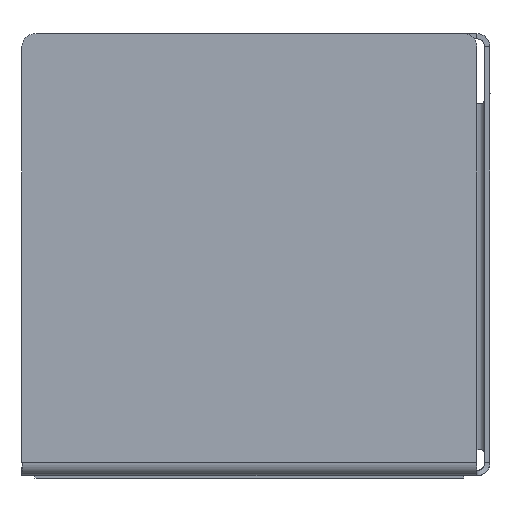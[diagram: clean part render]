
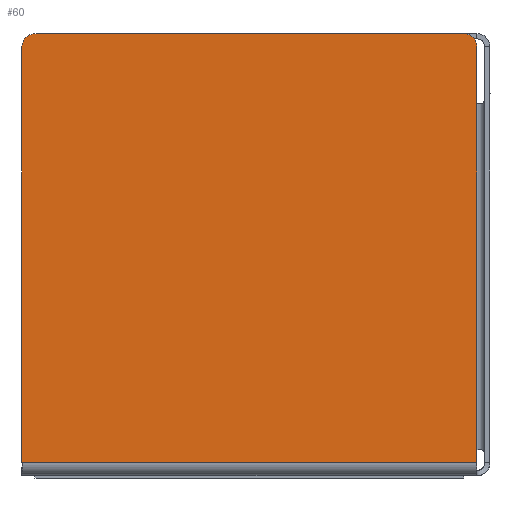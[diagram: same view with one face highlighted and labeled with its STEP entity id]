
A CAD part, left-side view. The second image highlights one B-rep face of the part: STEP entity #60.
In plain terms, the highlighted planar face has unit normal (-1, 0, 0).
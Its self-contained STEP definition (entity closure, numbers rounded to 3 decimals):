
#60=ADVANCED_FACE('',(#122),#912,.T.);
#122=FACE_OUTER_BOUND('',#184,.T.);
#184=EDGE_LOOP('',(#388,#389,#390,#391,#392,#393));
#388=ORIENTED_EDGE('',*,*,#552,.F.);
#389=ORIENTED_EDGE('',*,*,#596,.T.);
#390=ORIENTED_EDGE('',*,*,#556,.T.);
#391=ORIENTED_EDGE('',*,*,#597,.T.);
#392=ORIENTED_EDGE('',*,*,#550,.T.);
#393=ORIENTED_EDGE('',*,*,#598,.T.);
#550=EDGE_CURVE('',#823,#826,#691,.T.);
#552=EDGE_CURVE('',#827,#828,#693,.T.);
#556=EDGE_CURVE('',#831,#832,#697,.T.);
#596=EDGE_CURVE('',#827,#831,#735,.T.);
#597=EDGE_CURVE('',#832,#823,#736,.T.);
#598=EDGE_CURVE('',#826,#828,#737,.T.);
#691=B_SPLINE_CURVE_WITH_KNOTS('',1,(#1645,#1646),.UNSPECIFIED.,.F.,.F.,
(2,2),(0.,320.),.UNSPECIFIED.);
#693=B_SPLINE_CURVE_WITH_KNOTS('',1,(#1649,#1650),.UNSPECIFIED.,.F.,.F.,
(2,2),(10.,340.),.UNSPECIFIED.);
#697=B_SPLINE_CURVE_WITH_KNOTS('',1,(#1657,#1658),.UNSPECIFIED.,.F.,.F.,
(2,2),(10.,330.),.UNSPECIFIED.);
#735=B_SPLINE_CURVE_WITH_KNOTS('',3,(#1780,#1781,#1782,#1783),
 .UNSPECIFIED.,.F.,.F.,(4,4),(0.,15.708),.UNSPECIFIED.);
#736=B_SPLINE_CURVE_WITH_KNOTS('',1,(#1784,#1785),.UNSPECIFIED.,.F.,.F.,
(2,2),(-350.,0.),.UNSPECIFIED.);
#737=B_SPLINE_CURVE_WITH_KNOTS('',3,(#1786,#1787,#1788,#1789),
 .UNSPECIFIED.,.F.,.F.,(4,4),(0.,15.708),.UNSPECIFIED.);
#823=VERTEX_POINT('',#1317);
#826=VERTEX_POINT('',#1320);
#827=VERTEX_POINT('',#1321);
#828=VERTEX_POINT('',#1322);
#831=VERTEX_POINT('',#1325);
#832=VERTEX_POINT('',#1326);
#912=PLANE('',#1049);
#1049=AXIS2_PLACEMENT_3D('',#1256,#1111,$);
#1111=DIRECTION('',(-1.,0.,0.));
#1256=CARTESIAN_POINT('',(0.,360.005,2.));
#1317=CARTESIAN_POINT('',(0.,10.005,12.));
#1320=CARTESIAN_POINT('',(0.,10.005,332.));
#1321=CARTESIAN_POINT('',(0.,350.005,342.));
#1322=CARTESIAN_POINT('',(0.,20.005,342.));
#1325=CARTESIAN_POINT('',(0.,360.005,332.));
#1326=CARTESIAN_POINT('',(0.,360.005,12.));
#1645=CARTESIAN_POINT('',(0.,10.005,12.));
#1646=CARTESIAN_POINT('',(0.,10.005,332.));
#1649=CARTESIAN_POINT('',(0.,350.005,342.));
#1650=CARTESIAN_POINT('',(0.,20.005,342.));
#1657=CARTESIAN_POINT('',(0.,360.005,332.));
#1658=CARTESIAN_POINT('',(0.,360.005,12.));
#1780=CARTESIAN_POINT('',(0.,350.005,342.));
#1781=CARTESIAN_POINT('',(0.,355.527,342.));
#1782=CARTESIAN_POINT('',(0.,360.005,337.523));
#1783=CARTESIAN_POINT('',(0.,360.005,332.));
#1784=CARTESIAN_POINT('',(0.,360.005,12.));
#1785=CARTESIAN_POINT('',(0.,10.005,12.));
#1786=CARTESIAN_POINT('',(0.,10.005,332.));
#1787=CARTESIAN_POINT('',(0.,10.005,337.523));
#1788=CARTESIAN_POINT('',(0.,14.482,342.));
#1789=CARTESIAN_POINT('',(0.,20.005,342.));
